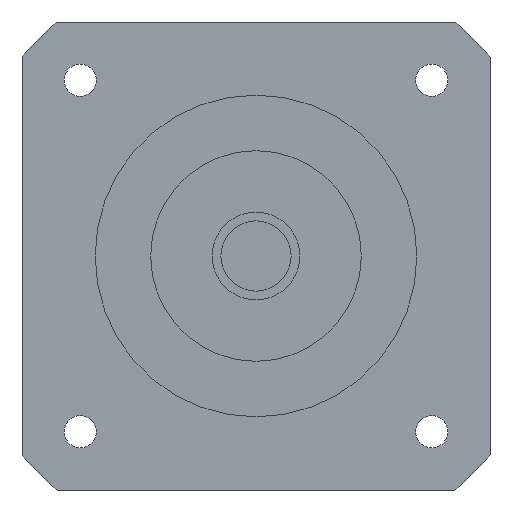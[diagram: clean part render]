
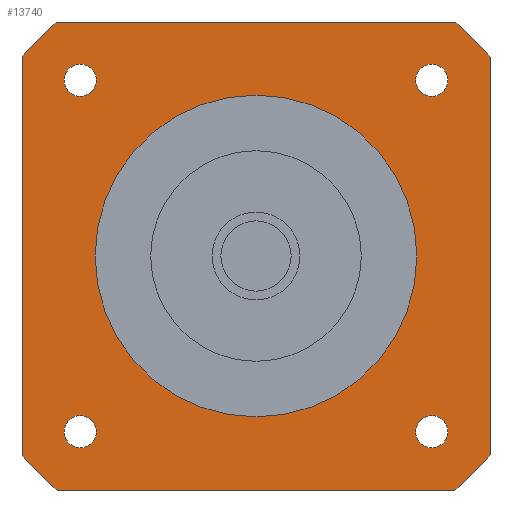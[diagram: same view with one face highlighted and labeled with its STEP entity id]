
A CAD part, left-side view. The second image highlights one B-rep face of the part: STEP entity #13740.
In plain terms, the highlighted planar face has unit normal (-1, 0, 0) as drawn and (0, 0, -1) by its records, which use the part's own axes.
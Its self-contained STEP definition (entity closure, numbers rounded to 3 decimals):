
#12110=CARTESIAN_POINT('',(-30.052,32.802,-42.2));
#12120=VERTEX_POINT('',#12110);
#12200=CARTESIAN_POINT('',(-30.052,27.302,-42.2));
#12210=VERTEX_POINT('',#12200);
#12240=CARTESIAN_POINT('',(-30.052,30.052,-42.2));
#12250=DIRECTION('',(0.,0.,1.));
#12260=DIRECTION('',(0.,1.,0.));
#12270=AXIS2_PLACEMENT_3D('',#12240,#12250,#12260);
#12280=CIRCLE('',#12270,2.75);
#12290=EDGE_CURVE('',#12210,#12120,#12280,.T.);
#12340=CARTESIAN_POINT('',(40.,-40.,-42.2));
#12350=DIRECTION('',(0.,0.,1.));
#12360=DIRECTION('',(0.,1.,0.));
#12370=AXIS2_PLACEMENT_3D('',#12340,#12350,#12360);
#12380=PLANE('',#12370);
#12390=CARTESIAN_POINT('',(-30.052,-30.052,-42.2));
#12400=DIRECTION('',(0.,0.,1.));
#12410=DIRECTION('',(0.,1.,0.));
#12420=AXIS2_PLACEMENT_3D('',#12390,#12400,#12410);
#12430=CIRCLE('',#12420,2.75);
#12440=CARTESIAN_POINT('',(-30.052,-27.302,-42.2));
#12450=VERTEX_POINT('',#12440);
#12460=CARTESIAN_POINT('',(-30.052,-32.802,-42.2));
#12470=VERTEX_POINT('',#12460);
#12480=EDGE_CURVE('',#12450,#12470,#12430,.T.);
#12490=ORIENTED_EDGE('',*,*,#12480,.T.);
#12500=EDGE_CURVE('',#12470,#12450,#12430,.T.);
#12510=ORIENTED_EDGE('',*,*,#12500,.T.);
#12520=EDGE_LOOP('',(#12510,#12490));
#12530=FACE_BOUND('',#12520,.T.);
#12540=CARTESIAN_POINT('',(30.052,30.052,-42.2));
#12550=DIRECTION('',(0.,0.,1.));
#12560=DIRECTION('',(0.,1.,0.));
#12570=AXIS2_PLACEMENT_3D('',#12540,#12550,#12560);
#12580=CIRCLE('',#12570,2.75);
#12590=CARTESIAN_POINT('',(30.052,32.802,-42.2));
#12600=VERTEX_POINT('',#12590);
#12610=CARTESIAN_POINT('',(30.052,27.302,-42.2));
#12620=VERTEX_POINT('',#12610);
#12630=EDGE_CURVE('',#12600,#12620,#12580,.T.);
#12640=ORIENTED_EDGE('',*,*,#12630,.T.);
#12650=EDGE_CURVE('',#12620,#12600,#12580,.T.);
#12660=ORIENTED_EDGE('',*,*,#12650,.T.);
#12670=EDGE_LOOP('',(#12660,#12640));
#12680=FACE_BOUND('',#12670,.T.);
#12690=EDGE_CURVE('',#12120,#12210,#12280,.T.);
#12700=ORIENTED_EDGE('',*,*,#12690,.T.);
#12710=ORIENTED_EDGE('',*,*,#12290,.T.);
#12720=EDGE_LOOP('',(#12710,#12700));
#12730=FACE_BOUND('',#12720,.T.);
#12740=CARTESIAN_POINT('',(0.,0.,
-42.2));
#12750=DIRECTION('',(0.,0.,1.));
#12760=DIRECTION('',(0.,-1.,0.));
#12770=AXIS2_PLACEMENT_3D('',#12740,#12750,#12760);
#12780=CIRCLE('',#12770,27.5);
#12790=CARTESIAN_POINT('',(0.,-27.5,-42.2));
#12800=VERTEX_POINT('',#12790);
#12810=CARTESIAN_POINT('',(0.,27.5,-42.2));
#12820=VERTEX_POINT('',#12810);
#12830=EDGE_CURVE('',#12800,#12820,#12780,.T.);
#12840=ORIENTED_EDGE('',*,*,#12830,.T.);
#12850=EDGE_CURVE('',#12820,#12800,#12780,.T.);
#12860=ORIENTED_EDGE('',*,*,#12850,.T.);
#12870=EDGE_LOOP('',(#12860,#12840));
#12880=FACE_BOUND('',#12870,.T.);
#12890=CARTESIAN_POINT('',(30.052,-30.052,-42.2));
#12900=DIRECTION('',(0.,0.,1.));
#12910=DIRECTION('',(0.,1.,0.));
#12920=AXIS2_PLACEMENT_3D('',#12890,#12900,#12910);
#12930=CIRCLE('',#12920,2.75);
#12940=CARTESIAN_POINT('',(30.052,-27.302,-42.2));
#12950=VERTEX_POINT('',#12940);
#12960=CARTESIAN_POINT('',(30.052,-32.802,-42.2));
#12970=VERTEX_POINT('',#12960);
#12980=EDGE_CURVE('',#12950,#12970,#12930,.T.);
#12990=ORIENTED_EDGE('',*,*,#12980,.T.);
#13000=EDGE_CURVE('',#12970,#12950,#12930,.T.);
#13010=ORIENTED_EDGE('',*,*,#13000,.T.);
#13020=EDGE_LOOP('',(#13010,#12990));
#13030=FACE_BOUND('',#13020,.T.);
#13040=CARTESIAN_POINT('',(0.,0.,
-42.2));
#13050=DIRECTION('',(0.,0.,1.));
#13060=DIRECTION('',(0.,1.,0.));
#13070=AXIS2_PLACEMENT_3D('',#13040,#13050,#13060);
#13080=CIRCLE('',#13070,52.5);
#13090=CARTESIAN_POINT('',(-34.004,40.,-42.2));
#13100=VERTEX_POINT('',#13090);
#13110=CARTESIAN_POINT('',(-40.,34.004,-42.2));
#13120=VERTEX_POINT('',#13110);
#13130=EDGE_CURVE('',#13100,#13120,#13080,.T.);
#13140=ORIENTED_EDGE('',*,*,#13130,.F.);
#13150=CARTESIAN_POINT('',(-40.,40.,-42.2));
#13160=DIRECTION('',(0.,-1.,0.));
#13170=VECTOR('',#13160,1000.);
#13180=LINE('',#13150,#13170);
#13190=CARTESIAN_POINT('',(-40.,-34.004,-42.2));
#13200=VERTEX_POINT('',#13190);
#13210=EDGE_CURVE('',#13120,#13200,#13180,.T.);
#13220=ORIENTED_EDGE('',*,*,#13210,.F.);
#13230=CARTESIAN_POINT('',(0.,0.,
-42.2));
#13240=DIRECTION('',(0.,0.,1.));
#13250=DIRECTION('',(0.,1.,0.));
#13260=AXIS2_PLACEMENT_3D('',#13230,#13240,#13250);
#13270=CIRCLE('',#13260,52.5);
#13280=CARTESIAN_POINT('',(-34.004,-40.,-42.2));
#13290=VERTEX_POINT('',#13280);
#13300=EDGE_CURVE('',#13200,#13290,#13270,.T.);
#13310=ORIENTED_EDGE('',*,*,#13300,.F.);
#13320=CARTESIAN_POINT('',(-40.,-40.,-42.2));
#13330=DIRECTION('',(1.,0.,0.));
#13340=VECTOR('',#13330,1000.);
#13350=LINE('',#13320,#13340);
#13360=CARTESIAN_POINT('',(34.004,-40.,-42.2));
#13370=VERTEX_POINT('',#13360);
#13380=EDGE_CURVE('',#13290,#13370,#13350,.T.);
#13390=ORIENTED_EDGE('',*,*,#13380,.F.);
#13400=CARTESIAN_POINT('',(0.,0.,
-42.2));
#13410=DIRECTION('',(0.,0.,1.));
#13420=DIRECTION('',(0.,1.,0.));
#13430=AXIS2_PLACEMENT_3D('',#13400,#13410,#13420);
#13440=CIRCLE('',#13430,52.5);
#13450=CARTESIAN_POINT('',(40.,-34.004,-42.2));
#13460=VERTEX_POINT('',#13450);
#13470=EDGE_CURVE('',#13370,#13460,#13440,.T.);
#13480=ORIENTED_EDGE('',*,*,#13470,.F.);
#13490=CARTESIAN_POINT('',(40.,-40.,-42.2));
#13500=DIRECTION('',(0.,1.,0.));
#13510=VECTOR('',#13500,1000.);
#13520=LINE('',#13490,#13510);
#13530=CARTESIAN_POINT('',(40.,34.004,-42.2));
#13540=VERTEX_POINT('',#13530);
#13550=EDGE_CURVE('',#13460,#13540,#13520,.T.);
#13560=ORIENTED_EDGE('',*,*,#13550,.F.);
#13570=CARTESIAN_POINT('',(0.,0.,
-42.2));
#13580=DIRECTION('',(0.,0.,1.));
#13590=DIRECTION('',(0.,1.,0.));
#13600=AXIS2_PLACEMENT_3D('',#13570,#13580,#13590);
#13610=CIRCLE('',#13600,52.5);
#13620=CARTESIAN_POINT('',(34.004,40.,-42.2));
#13630=VERTEX_POINT('',#13620);
#13640=EDGE_CURVE('',#13540,#13630,#13610,.T.);
#13650=ORIENTED_EDGE('',*,*,#13640,.F.);
#13660=CARTESIAN_POINT('',(40.,40.,-42.2));
#13670=DIRECTION('',(-1.,0.,0.));
#13680=VECTOR('',#13670,1000.);
#13690=LINE('',#13660,#13680);
#13700=EDGE_CURVE('',#13630,#13100,#13690,.T.);
#13710=ORIENTED_EDGE('',*,*,#13700,.F.);
#13720=EDGE_LOOP('',(#13710,#13650,#13560,#13480,#13390,#13310,#13220,
#13140));
#13730=FACE_OUTER_BOUND('',#13720,.T.);
#13740=ADVANCED_FACE('',(#12530,#12680,#12730,#12880,#13030,#13730),
#12380,.F.);
